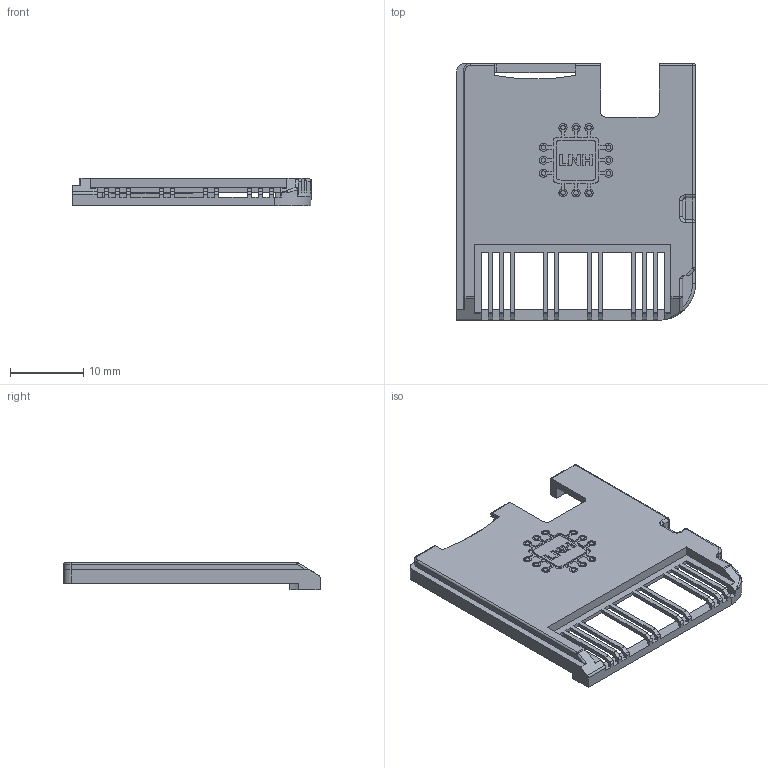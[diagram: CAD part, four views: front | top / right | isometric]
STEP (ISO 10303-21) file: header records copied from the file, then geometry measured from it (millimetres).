
FILE_DESCRIPTION(/* description */ (''),/* implementation_level */ '2;1');
FILE_NAME(/* name */ 'C:\Users\Nico\Documents\GitHub\dspico-hardware\dspico-shell\3d-models\v1.4\forced-rotation-printing\dspico-shell-bottom_v1-4.stp',/* time_stamp */ '2025-11-22T14:10:54+01:00',/* author */ ('Nico'),/* organization */ (''),/* preprocessor_version */ 'ST-DEVELOPER v19',/* originating_system */ 'Autodesk Inventor 2023',/* authorisation */ '');
FILE_SCHEMA (('AUTOMOTIVE_DESIGN { 1 0 10303 214 3 1 1 }'));
Length unit declared in the file: millimetre
Products named in the file (1): dspico-shell
Bounding box: 32.6 x 35 x 3.7 mm (x, y, z)
Volume: 899.8 mm3; surface area: 2703 mm2
Topology: 1 solids, 1 shells, 603 faces, 1730 edges, 1134 vertices
Faces by surface type: plane 321, bspline 150, cylinder 111, torus 11, sphere 10
Full cylindrical faces by diameter (mm): 1.2 x4, 1.651 x1
Entity records: 20534 total; most frequent: CARTESIAN_POINT 5657, ORIENTED_EDGE 3454, DIRECTION 2627, EDGE_CURVE 1727, LINE 1179, VECTOR 1179, VERTEX_POINT 1130, AXIS2_PLACEMENT_3D 724
